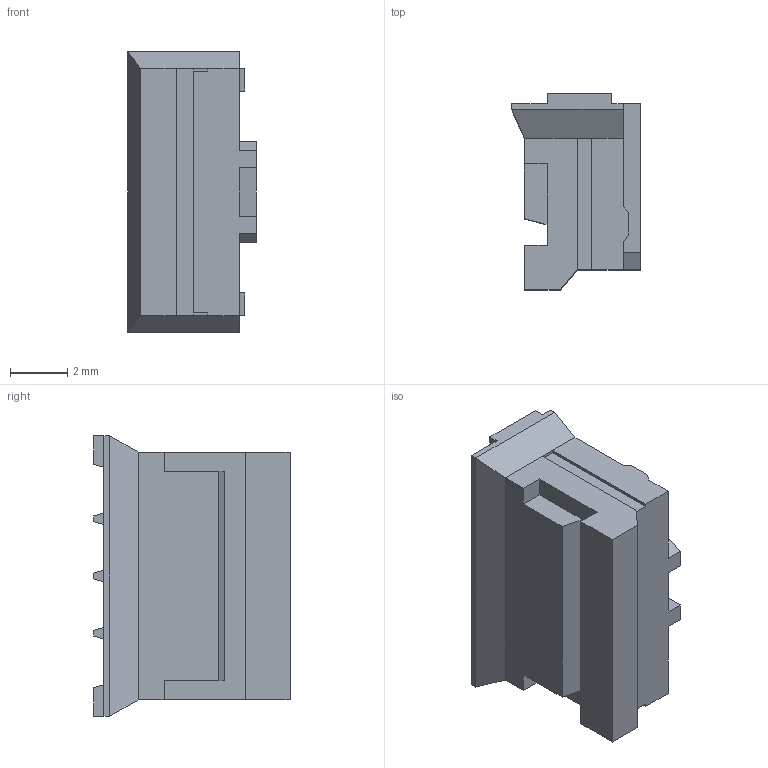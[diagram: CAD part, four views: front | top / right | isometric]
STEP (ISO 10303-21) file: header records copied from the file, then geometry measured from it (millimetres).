
FILE_DESCRIPTION((''),'2;1');
FILE_NAME('S-50389-004HXXX-XXX','2015-07-01T',('k55943'),(''),'PRO/ENGINEER BY PARAMETRIC TECHNOLOGY CORPORATION, 2009440','PRO/ENGINEER BY PARAMETRIC TECHNOLOGY CORPORATION, 2009440','');
FILE_SCHEMA(('CONFIG_CONTROL_DESIGN'));
Length unit declared in the file: millimetre
Products named in the file (1): S-50389-004HXXX-XXX
Bounding box: 4.5 x 6.85 x 9.8 mm (x, y, z)
Volume: 190.3 mm3; surface area: 261.9 mm2
Topology: 1 solids, 1 shells, 74 faces, 197 edges, 128 vertices
Faces by surface type: plane 74
Entity records: 2279 total; most frequent: CARTESIAN_POINT 399, ORIENTED_EDGE 394, DIRECTION 345, VECTOR 197, LINE 197, EDGE_CURVE 197, VERTEX_POINT 128, EDGE_LOOP 77
